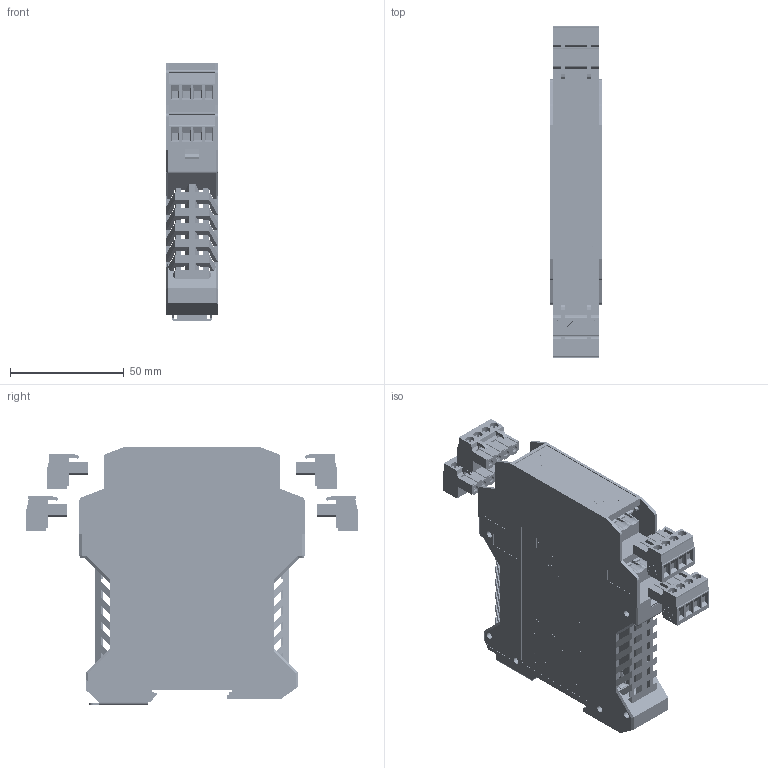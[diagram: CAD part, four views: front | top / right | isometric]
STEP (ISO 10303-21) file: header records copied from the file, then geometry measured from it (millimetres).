
FILE_DESCRIPTION(('STEP AP203'), '1');
FILE_NAME('鍛鍧 BPI-2', '', ('UNSPECIFIED'), ('UNSPECIFIED'), 'ASCON STEP Converter 1.3', 'ASCON Math Kernel', '');
FILE_SCHEMA(('CONFIG_CONTROL_DESIGN'));
Length unit declared in the file: millimetre
Products named in the file (16): MSTBT_2.5-4-ST; ME_22.5_UT_FE_H.Select__00393870; ME_22.5_UTL_H_H.Select__00392903; ME_22.5_UTR_H_H.Select__00393036; ME_Verriegelungshaken_H.Select__00446697; ME_FUNKTIONSERDKONTAKT_H.Select__00314172; Fussriegel_17.5_L30_H.Select__00315466; ME_22_5_OT-MSTBO_H.Select__00273265; MSTBO_2_5_4-G1L_H.Select__00364411; MSTBO_2_5_4-G1R_H.Select__00364505
Assembly tree (21 placements, depth 5):
  (unnamed)
    MSTBT_2.5-4-ST  x4
      MSTBT_2.5-4-ST
    (unnamed)
      (unnamed)
        ME_22.5_UT_FE_H.Select__00393870
          ME_22.5_UTL_H_H.Select__00392903
          ME_22.5_UTR_H_H.Select__00393036
          ME_Verriegelungshaken_H.Select__00446697  x2
          ME_FUNKTIONSERDKONTAKT_H.Select__00314172
          Fussriegel_17.5_L30_H.Select__00315466
      (unnamed)
        (unnamed)
          ME_22_5_OT-MSTBO_H.Select__00273265
          MSTBO_2_5_4-G1L_H.Select__00364411  x2
          MSTBO_2_5_4-G1R_H.Select__00364505  x2
Bounding box: 22.6 x 145.9 x 113.6 mm (x, y, z)
Volume: 69490.4 mm3; surface area: 95543.5 mm2
Topology: 18 solids, 20 shells, 14183 faces, 39840 edges, 26421 vertices
Faces by surface type: plane 9309, cylinder 4502, extrusion 352, cone 20
Full cylindrical faces by diameter (mm): 0.4 x2, 1.2 x1, 1.353 x16, 1.4 x32, 2 x6, 2.8 x32, 3 x12, 3.783 x16, 4 x16
Entity records: 468126 total; most frequent: CARTESIAN_POINT 70070, ORIENTED_EDGE 64908, DIRECTION 62881, EDGE_CURVE 32454, VECTOR 23867, LINE 23626, VERTEX_POINT 21599, AXIS2_PLACEMENT_3D 19507
